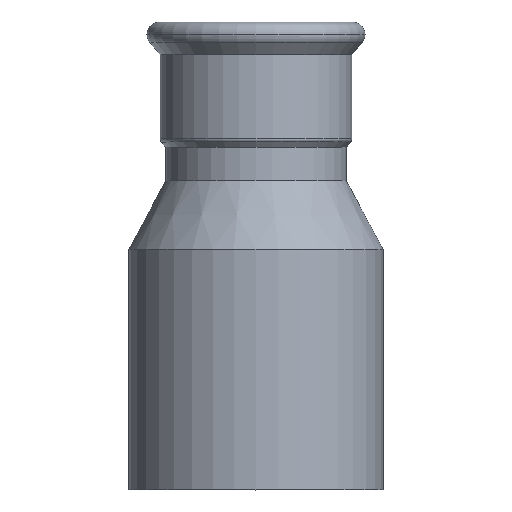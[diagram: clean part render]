
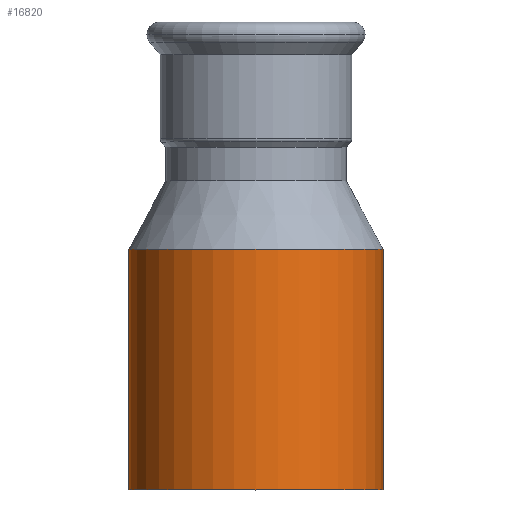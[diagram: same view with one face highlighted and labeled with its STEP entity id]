
A CAD part, top view. The second image highlights one B-rep face of the part: STEP entity #16820.
In plain terms, the highlighted cylindrical face has radius 38.05 mm (diameter 76.1 mm), a partial arc.
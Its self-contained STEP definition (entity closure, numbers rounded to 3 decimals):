
#14170=CARTESIAN_POINT('',(68.394,163.195,
0.));
#14180=VERTEX_POINT('',#14170);
#14260=CARTESIAN_POINT('',(-7.706,163.195,
0.));
#14270=VERTEX_POINT('',#14260);
#14300=CARTESIAN_POINT('',(30.344,163.195,
0.));
#14310=DIRECTION('',(0.,-1.,0.));
#14320=DIRECTION('',(1.,0.,0.));
#14330=AXIS2_PLACEMENT_3D('',#14300,#14310,#14320);
#14340=CIRCLE('',#14330,38.05);
#14720=CARTESIAN_POINT('',(30.344,91.195,0.));
#14730=DIRECTION('',(0.,-1.,0.));
#14740=DIRECTION('',(1.,0.,0.));
#14750=AXIS2_PLACEMENT_3D('',#14720,#14730,#14740);
#14760=CYLINDRICAL_SURFACE('',#14750,38.05);
#14770=CARTESIAN_POINT('',(-7.706,91.195,
0.));
#14780=DIRECTION('',(0.,-1.,0.));
#14790=VECTOR('',#14780,1.);
#14800=LINE('',#14770,#14790);
#14810=CARTESIAN_POINT('',(-7.706,91.195,
0.));
#14820=VERTEX_POINT('',#14810);
#14830=EDGE_CURVE('',#14270,#14820,#14800,.T.);
#14850=CARTESIAN_POINT('',(30.344,91.195,0.));
#14860=DIRECTION('',(0.,-1.,0.));
#14870=DIRECTION('',(1.,0.,0.));
#14880=AXIS2_PLACEMENT_3D('',#14850,#14860,#14870);
#14890=CIRCLE('',#14880,38.05);
#14900=CARTESIAN_POINT('',(68.394,91.195,0.));
#14910=VERTEX_POINT('',#14900);
#14940=CARTESIAN_POINT('',(68.394,91.195,0.));
#14950=DIRECTION('',(0.,-1.,0.));
#14960=VECTOR('',#14950,1.);
#14970=LINE('',#14940,#14960);
#14980=EDGE_CURVE('',#14180,#14910,#14970,.T.);
#15240=EDGE_CURVE('',#14910,#14820,#14890,.T.);
#16150=EDGE_CURVE('',#14180,#14270,#14340,.T.);
#16760=ORIENTED_EDGE('',*,*,#15240,.F.);
#16770=ORIENTED_EDGE('',*,*,#14830,.T.);
#16780=ORIENTED_EDGE('',*,*,#16150,.T.);
#16790=ORIENTED_EDGE('',*,*,#14980,.F.);
#16800=EDGE_LOOP('',(#16790,#16780,#16770,#16760));
#16810=FACE_OUTER_BOUND('',#16800,.T.);
#16820=ADVANCED_FACE('',(#16810),#14760,.T.);
